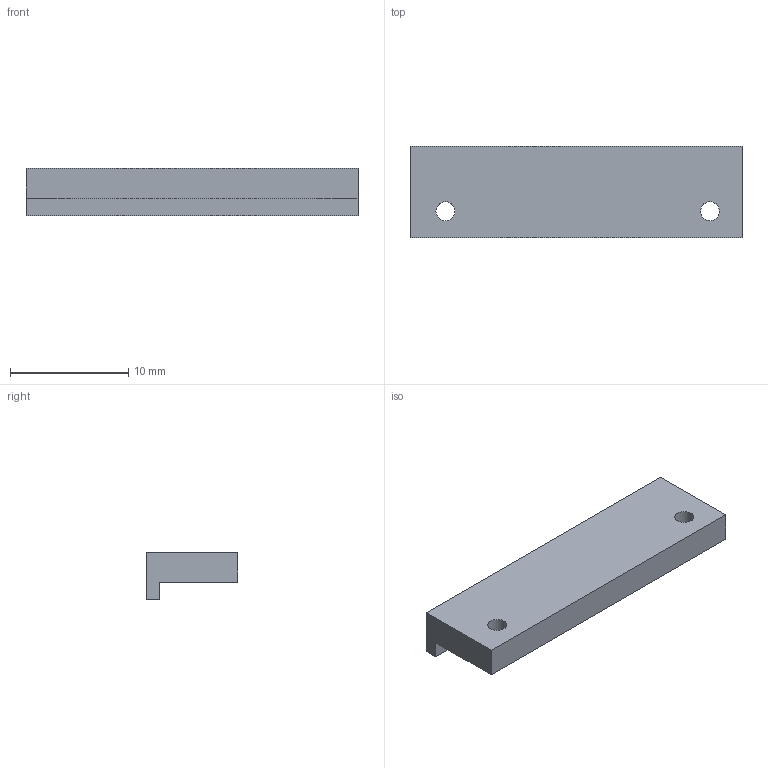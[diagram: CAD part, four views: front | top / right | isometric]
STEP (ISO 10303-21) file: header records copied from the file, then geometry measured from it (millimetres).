
FILE_DESCRIPTION(/* description */ (''),/* implementation_level */ '2;1');
FILE_NAME(/* name */ 'C:\Users\johne\Desktop\Left Rail Section.stp',/* time_stamp */ '2019-03-17T18:53:34-05:00',/* author */ ('johne'),/* organization */ (''),/* preprocessor_version */ 'ST-DEVELOPER v16.13',/* originating_system */ 'Autodesk Inventor 2018',/* authorisation */ '');
FILE_SCHEMA (('AUTOMOTIVE_DESIGN { 1 0 10303 214 3 1 1 }'));
Length unit declared in the file: millimetre
Products named in the file (1): Left Rail Section
Bounding box: 28.11 x 7.78 x 4 mm (x, y, z)
Volume: 592.3 mm3; surface area: 722.7 mm2
Topology: 1 solids, 1 shells, 10 faces, 24 edges, 16 vertices
Faces by surface type: plane 8, cylinder 2
Full cylindrical faces by diameter (mm): 1.6 x2
Entity records: 329 total; most frequent: CARTESIAN_POINT 49, DIRECTION 48, ORIENTED_EDGE 44, EDGE_CURVE 22, LINE 18, VECTOR 18, EDGE_LOOP 16, VERTEX_POINT 16
